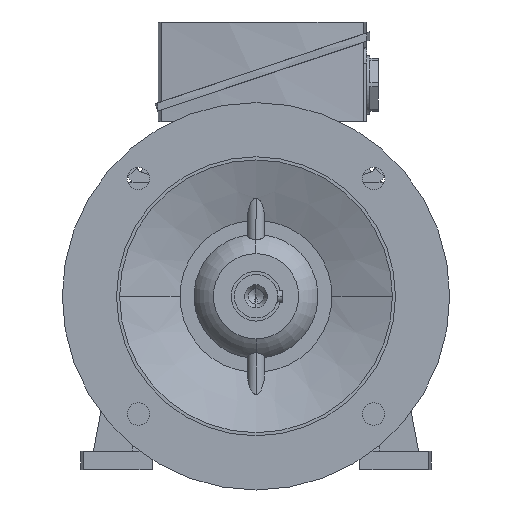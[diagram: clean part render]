
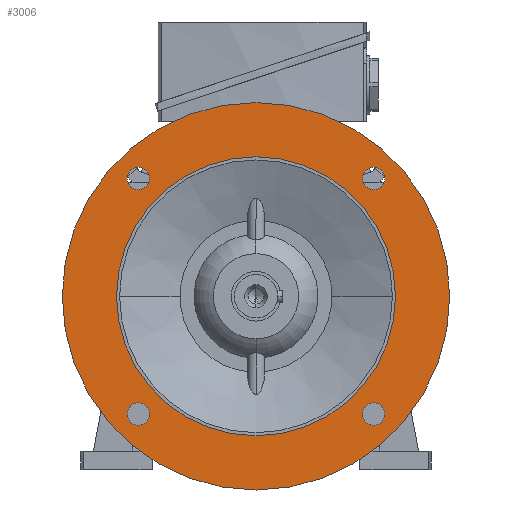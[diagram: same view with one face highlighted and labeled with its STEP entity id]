
A CAD part, left-side view. The second image highlights one B-rep face of the part: STEP entity #3006.
In plain terms, the highlighted planar face has unit normal (-1, 0, 0).
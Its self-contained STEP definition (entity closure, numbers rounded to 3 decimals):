
#3006=ADVANCED_FACE('',(#6070,#6071,#6072,#6073,#6074,#6075),#6076,.T.);
#6070=FACE_BOUND('',#9136,.T.);
#6071=FACE_BOUND('',#9137,.T.);
#6072=FACE_BOUND('',#9138,.T.);
#6073=FACE_BOUND('',#9139,.T.);
#6074=FACE_OUTER_BOUND('',#9140,.T.);
#6075=FACE_BOUND('',#9141,.T.);
#6076=PLANE('',#9142);
#9136=EDGE_LOOP('',(#18650,#18651));
#9137=EDGE_LOOP('',(#18652,#18653));
#9138=EDGE_LOOP('',(#18654,#18655));
#9139=EDGE_LOOP('',(#18656,#18657));
#9140=EDGE_LOOP('',(#18658,#18659));
#9141=EDGE_LOOP('',(#18660,#18661));
#9142=AXIS2_PLACEMENT_3D('',#18662,#18663,#18664);
#18650=ORIENTED_EDGE('',*,*,#22454,.T.);
#18651=ORIENTED_EDGE('',*,*,#18944,.T.);
#18652=ORIENTED_EDGE('',*,*,#22456,.T.);
#18653=ORIENTED_EDGE('',*,*,#18939,.T.);
#18654=ORIENTED_EDGE('',*,*,#22458,.T.);
#18655=ORIENTED_EDGE('',*,*,#18934,.T.);
#18656=ORIENTED_EDGE('',*,*,#22460,.T.);
#18657=ORIENTED_EDGE('',*,*,#18929,.T.);
#18658=ORIENTED_EDGE('',*,*,#18909,.F.);
#18659=ORIENTED_EDGE('',*,*,#22486,.F.);
#18660=ORIENTED_EDGE('',*,*,#18916,.T.);
#18661=ORIENTED_EDGE('',*,*,#22484,.T.);
#18662=CARTESIAN_POINT('',(-40.0,107.5,0.0));
#18663=DIRECTION('',(-1.0,0.0,0.0));
#18664=DIRECTION('',(0.0,-1.0,0.0));
#18909=EDGE_CURVE('',#22783,#22786,#22787,.T.);
#18916=EDGE_CURVE('',#22793,#22797,#22799,.T.);
#18929=EDGE_CURVE('',#22822,#22819,#22823,.T.);
#18934=EDGE_CURVE('',#22831,#22828,#22832,.T.);
#18939=EDGE_CURVE('',#22840,#22837,#22841,.T.);
#18944=EDGE_CURVE('',#22849,#22846,#22850,.T.);
#22454=EDGE_CURVE('',#22846,#22849,#28078,.T.);
#22456=EDGE_CURVE('',#22837,#22840,#28080,.T.);
#22458=EDGE_CURVE('',#22828,#22831,#28082,.T.);
#22460=EDGE_CURVE('',#22819,#22822,#28084,.T.);
#22484=EDGE_CURVE('',#22797,#22793,#28108,.T.);
#22486=EDGE_CURVE('',#22786,#22783,#28110,.T.);
#22783=VERTEX_POINT('',#28583);
#22786=VERTEX_POINT('',#28587);
#22787=CIRCLE('',#28588,125.0);
#22793=VERTEX_POINT('',#28595);
#22797=VERTEX_POINT('',#28600);
#22799=CIRCLE('',#28603,90.0);
#22819=VERTEX_POINT('',#28641);
#22822=VERTEX_POINT('',#28645);
#22823=CIRCLE('',#28646,7.25);
#22828=VERTEX_POINT('',#28652);
#22831=VERTEX_POINT('',#28656);
#22832=CIRCLE('',#28657,7.25);
#22837=VERTEX_POINT('',#28663);
#22840=VERTEX_POINT('',#28667);
#22841=CIRCLE('',#28668,7.25);
#22846=VERTEX_POINT('',#28674);
#22849=VERTEX_POINT('',#28678);
#22850=CIRCLE('',#28679,7.25);
#28078=CIRCLE('',#41642,7.25);
#28080=CIRCLE('',#41644,7.25);
#28082=CIRCLE('',#41646,7.25);
#28084=CIRCLE('',#41648,7.25);
#28108=CIRCLE('',#41703,90.0);
#28110=CIRCLE('',#41705,125.0);
#28583=CARTESIAN_POINT('',(-40.0,125.0,0.0));
#28587=CARTESIAN_POINT('',(-40.0,-125.0,0.));
#28588=AXIS2_PLACEMENT_3D('',#41865,#41866,#41867);
#28595=CARTESIAN_POINT('',(-40.0,90.0,0.0));
#28600=CARTESIAN_POINT('',(-40.0,-90.0,0.));
#28603=AXIS2_PLACEMENT_3D('',#41877,#41878,#41879);
#28641=CARTESIAN_POINT('',(-40.0,-81.141,81.141));
#28645=CARTESIAN_POINT('',(-40.0,-70.887,70.887));
#28646=AXIS2_PLACEMENT_3D('',#41899,#41900,#41901);
#28652=CARTESIAN_POINT('',(-40.0,81.141,81.141));
#28656=CARTESIAN_POINT('',(-40.0,70.887,70.887));
#28657=AXIS2_PLACEMENT_3D('',#41907,#41908,#41909);
#28663=CARTESIAN_POINT('',(-40.0,81.141,-81.141));
#28667=CARTESIAN_POINT('',(-40.0,70.887,-70.887));
#28668=AXIS2_PLACEMENT_3D('',#41915,#41916,#41917);
#28674=CARTESIAN_POINT('',(-40.0,-81.141,-81.141));
#28678=CARTESIAN_POINT('',(-40.0,-70.887,-70.887));
#28679=AXIS2_PLACEMENT_3D('',#41923,#41924,#41925);
#41642=AXIS2_PLACEMENT_3D('',#45373,#45374,#45375);
#41644=AXIS2_PLACEMENT_3D('',#45376,#45377,#45378);
#41646=AXIS2_PLACEMENT_3D('',#45379,#45380,#45381);
#41648=AXIS2_PLACEMENT_3D('',#45382,#45383,#45384);
#41703=AXIS2_PLACEMENT_3D('',#45395,#45396,#45397);
#41705=AXIS2_PLACEMENT_3D('',#45398,#45399,#45400);
#41865=CARTESIAN_POINT('',(-40.0,0.0,0.0));
#41866=DIRECTION('',(1.0,0.0,0.0));
#41867=DIRECTION('',(0.0,1.0,0.0));
#41877=CARTESIAN_POINT('',(-40.0,0.0,0.0));
#41878=DIRECTION('',(1.0,0.0,0.0));
#41879=DIRECTION('',(0.0,1.0,0.0));
#41899=CARTESIAN_POINT('',(-40.0,-76.014,76.014));
#41900=DIRECTION('',(1.0,0.0,-0.0));
#41901=DIRECTION('',(0.0,-0.707,0.707));
#41907=CARTESIAN_POINT('',(-40.0,76.014,76.014));
#41908=DIRECTION('',(1.0,0.0,-0.0));
#41909=DIRECTION('',(0.0,0.707,0.707));
#41915=CARTESIAN_POINT('',(-40.0,76.014,-76.014));
#41916=DIRECTION('',(1.0,-0.0,0.0));
#41917=DIRECTION('',(0.0,0.707,-0.707));
#41923=CARTESIAN_POINT('',(-40.0,-76.014,-76.014));
#41924=DIRECTION('',(1.0,0.0,0.0));
#41925=DIRECTION('',(0.0,-0.707,-0.707));
#45373=CARTESIAN_POINT('',(-40.0,-76.014,-76.014));
#45374=DIRECTION('',(1.0,0.0,0.0));
#45375=DIRECTION('',(0.0,-0.707,-0.707));
#45376=CARTESIAN_POINT('',(-40.0,76.014,-76.014));
#45377=DIRECTION('',(1.0,-0.0,0.0));
#45378=DIRECTION('',(0.0,0.707,-0.707));
#45379=CARTESIAN_POINT('',(-40.0,76.014,76.014));
#45380=DIRECTION('',(1.0,0.0,-0.0));
#45381=DIRECTION('',(0.0,0.707,0.707));
#45382=CARTESIAN_POINT('',(-40.0,-76.014,76.014));
#45383=DIRECTION('',(1.0,0.0,-0.0));
#45384=DIRECTION('',(0.0,-0.707,0.707));
#45395=CARTESIAN_POINT('',(-40.0,0.0,0.0));
#45396=DIRECTION('',(1.0,0.0,0.0));
#45397=DIRECTION('',(0.0,1.0,0.0));
#45398=CARTESIAN_POINT('',(-40.0,0.0,0.0));
#45399=DIRECTION('',(1.0,0.0,0.0));
#45400=DIRECTION('',(0.0,1.0,0.0));
